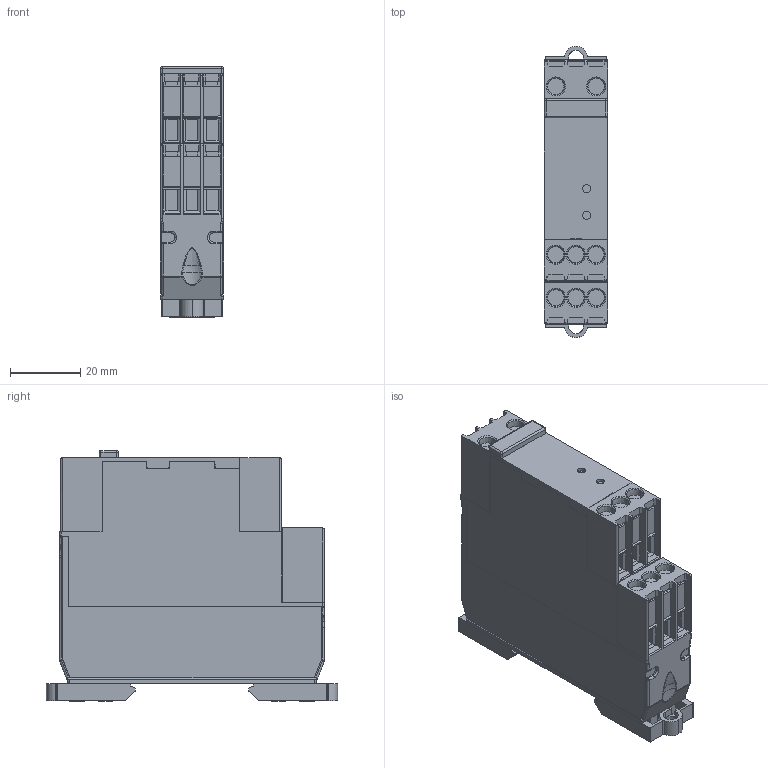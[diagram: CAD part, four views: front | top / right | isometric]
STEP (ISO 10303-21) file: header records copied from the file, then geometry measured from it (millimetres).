
FILE_DESCRIPTION (( 'STEP AP214' ), '1' );
FILE_NAME ('C133.xx.STEP', '2024-04-04T09:21:31', ( '' ), ( '' ), 'SwSTEP 2.0', 'SolidWorks 2022', '' );
FILE_SCHEMA (( 'AUTOMOTIVE_DESIGN' ));
Length unit declared in the file: millimetre
Products named in the file (1): C133.xx
Bounding box: 18.14 x 83.2 x 71.55 mm (x, y, z)
Volume: 81379.2 mm3; surface area: 24383.2 mm2
Topology: 1 solids, 6 shells, 872 faces, 2405 edges, 1517 vertices
Faces by surface type: plane 618, cylinder 160, cone 38, sphere 28, bspline 20, torus 8
Entity records: 36941 total; most frequent: CARTESIAN_POINT 6624, ORIENTED_EDGE 4742, DIRECTION 3951, EDGE_CURVE 2371, VECTOR 1665, LINE 1665, VERTEX_POINT 1497, AXIS2_PLACEMENT_3D 1143
